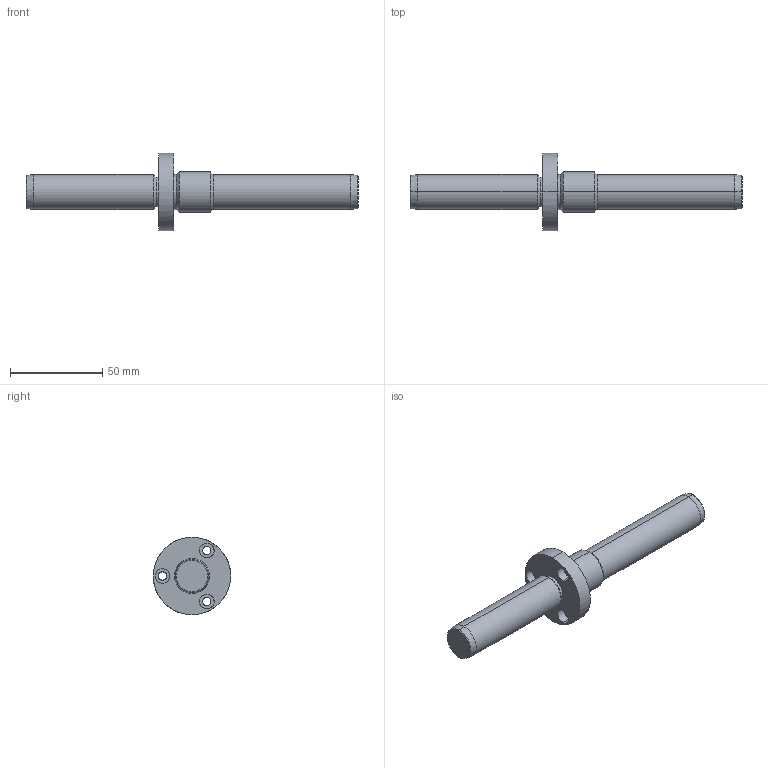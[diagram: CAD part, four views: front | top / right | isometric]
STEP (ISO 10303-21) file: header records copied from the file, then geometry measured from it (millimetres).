
FILE_DESCRIPTION(('CATIA V5 STEP Exchange'),'2;1');
FILE_NAME('C:\Users\Utente\Desktop\IO LAVORO\3D X SITO CF\X SITO\721\721-19x180.stp','2021-01-01T17:34:07+00:00',('none'),('none'),'CATIA Version 5 Release 20 GA (IN-10)','CATIA V5 STEP AP203','none');
FILE_SCHEMA(('CONFIG_CONTROL_DESIGN'));
Length unit declared in the file: millimetre
Products named in the file (1): 721-19x180
Bounding box: 180 x 42 x 42 mm (x, y, z)
Volume: 60456.6 mm3; surface area: 14750 mm2
Topology: 1 solids, 1 shells, 45 faces, 150 edges, 112 vertices
Faces by surface type: cylinder 24, cone 10, plane 7, torus 4
Entity records: 2060 total; most frequent: CARTESIAN_POINT 730, ORIENTED_EDGE 300, DIRECTION 206, EDGE_CURVE 150, AXIS2_PLACEMENT_3D 128, VERTEX_POINT 112, CIRCLE 82, EDGE_LOOP 56
